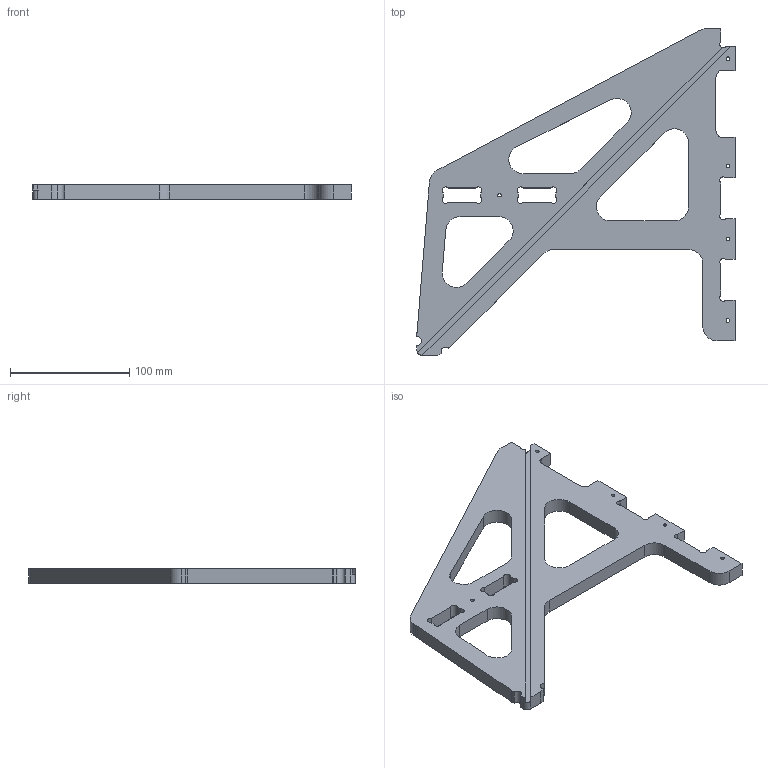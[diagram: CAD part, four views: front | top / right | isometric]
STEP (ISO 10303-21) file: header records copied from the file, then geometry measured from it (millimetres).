
FILE_DESCRIPTION(/* description */ ('','CAx-IF Rec.Pracs.---Representation and Presentation of Product Manufacturing Information (PMI)---4.0---2014-10-13'),/* implementation_level */ '2;1');
FILE_NAME(/* name */ 'TP-Side-Left-12mm.step',/* time_stamp */ '2024-12-17T12:27:21+01:00',/* author */ (''),/* organization */ (''),/* preprocessor_version */ 'ST-DEVELOPER v20',/* originating_system */ 'Autodesk Translation Framework v13.20.0.188',/* authorisation */ '');
FILE_SCHEMA (('AP242_MANAGED_MODEL_BASED_3D_ENGINEERING_MIM_LF { 1 0 10303 442 1 1 4 }'));
Length unit declared in the file: millimetre
Products named in the file (1): Side Left
Bounding box: 267 x 274 x 12 mm (x, y, z)
Volume: 335380 mm3; surface area: 85326.7 mm2
Topology: 1 solids, 1 shells, 96 faces, 277 edges, 183 vertices
Faces by surface type: plane 49, cylinder 42, cone 5
Full cylindrical faces by diameter (mm): 3 x5
Entity records: 3252 total; most frequent: DIRECTION 562, CARTESIAN_POINT 557, ORIENTED_EDGE 554, EDGE_CURVE 277, AXIS2_PLACEMENT_3D 188, LINE 186, VECTOR 186, VERTEX_POINT 183
